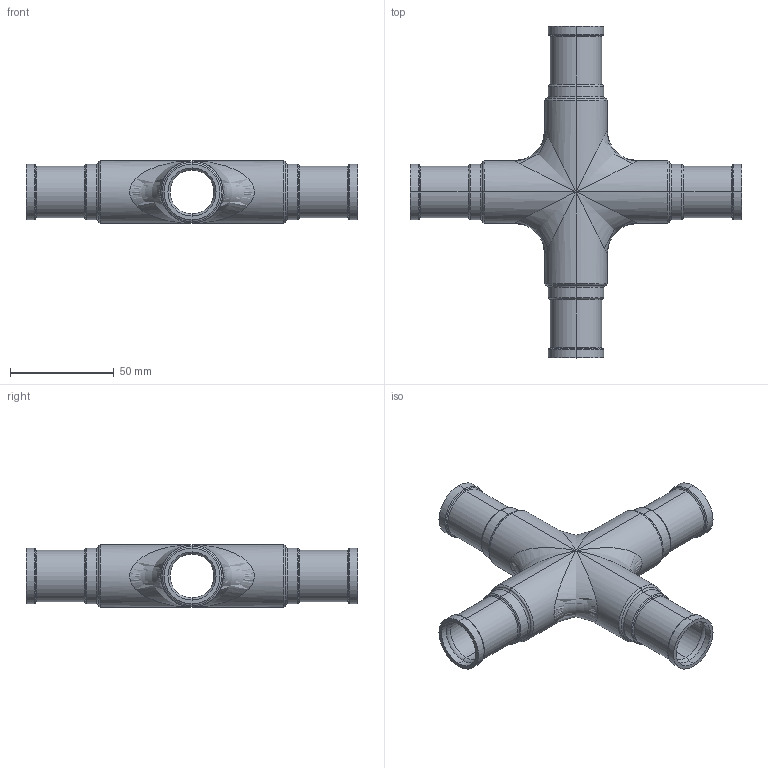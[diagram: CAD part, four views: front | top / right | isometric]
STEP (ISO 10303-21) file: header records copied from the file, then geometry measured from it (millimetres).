
FILE_DESCRIPTION (( 'STEP AP214' ), '1' );
FILE_NAME ('115.301.004.STEP', '2022-01-03T11:09:46', ( '' ), ( '' ), 'SwSTEP 2.0', 'SolidWorks 2018', '' );
FILE_SCHEMA (( 'AUTOMOTIVE_DESIGN' ));
Length unit declared in the file: millimetre
Products named in the file (2): 115.301.004
Bounding box: 160 x 160 x 30 mm (x, y, z)
Volume: 42275.9 mm3; surface area: 47510.5 mm2
Topology: 1 solids, 1 shells, 148 faces, 304 edges, 140 vertices
Faces by surface type: torus 72, cylinder 64, bspline 8, plane 4
Entity records: 5485 total; most frequent: CARTESIAN_POINT 2386, DIRECTION 764, ORIENTED_EDGE 576, AXIS2_PLACEMENT_3D 350, EDGE_CURVE 288, CIRCLE 208, EDGE_LOOP 152, FACE_OUTER_BOUND 148
